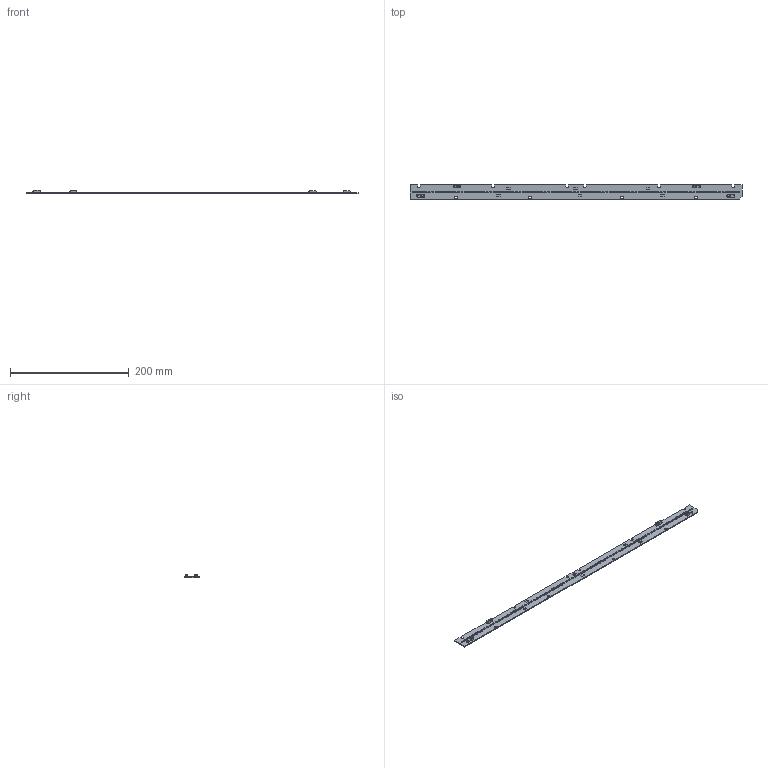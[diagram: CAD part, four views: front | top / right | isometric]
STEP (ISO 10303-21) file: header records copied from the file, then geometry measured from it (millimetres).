
FILE_DESCRIPTION (( 'STEP AP203' ), '1' );
FILE_NAME ('led_module iC562.STEP', '2017-08-17T09:40:21', ( '' ), ( '' ), 'SwSTEP 2.0', 'SolidWorks 2014', '' );
FILE_SCHEMA (( 'CONFIG_CONTROL_DESIGN' ));
Length unit declared in the file: millimetre
Products named in the file (6): 7800175; LM561B; LM561B or; led_module iC562; hyppyvastus; 75790C
Assembly tree (90 placements, depth 2):
  led_module iC562
    75790C
    7800175  x4
    LM561B  x40
    LM561B or  x39
    hyppyvastus  x6
Bounding box: 560 x 24 x 5.95 mm (x, y, z)
Volume: 23284.1 mm3; surface area: 36456.1 mm2
Topology: 564 solids, 564 shells, 5125 faces, 11947 edges, 7962 vertices
Faces by surface type: plane 4043, cylinder 762, cone 316, bspline 4
Entity records: 11641 total; most frequent: CARTESIAN_POINT 1640, DIRECTION 1541, ORIENTED_EDGE 1406, EDGE_CURVE 703, LINE 555, VECTOR 555, AXIS2_PLACEMENT_3D 493, VERTEX_POINT 468
